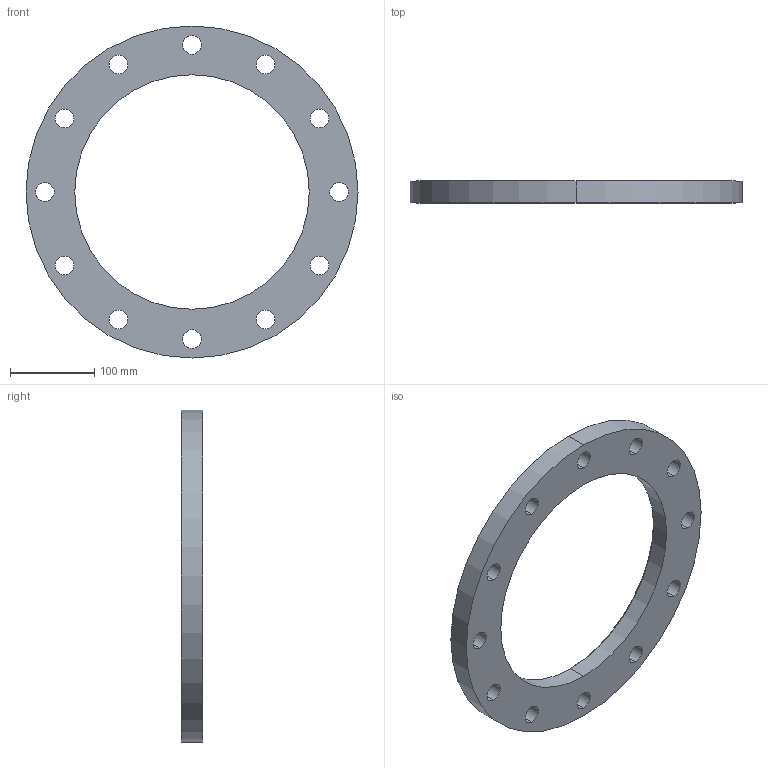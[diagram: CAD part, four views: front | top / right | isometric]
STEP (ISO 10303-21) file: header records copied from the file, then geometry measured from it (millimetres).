
FILE_DESCRIPTION (( 'STEP AP203' ), '1' );
FILE_NAME ('3D_R189_PN10_DN273_17669380.STEP', '2024-08-12T10:57:08', ( '' ), ( '' ), 'SwSTEP 2.0', 'SolidWorks 2024', '' );
FILE_SCHEMA (( 'CONFIG_CONTROL_DESIGN' ));
Length unit declared in the file: millimetre
Products named in the file (1): 3D_R189_PN10_DN273_17669380
Bounding box: 395 x 26 x 395 mm (x, y, z)
Volume: 1470864.4 mm3; surface area: 188272.2 mm2
Topology: 1 solids, 1 shells, 32 faces, 88 edges, 58 vertices
Faces by surface type: cylinder 28, cone 2, plane 2
Entity records: 1183 total; most frequent: DIRECTION 212, CARTESIAN_POINT 179, ORIENTED_EDGE 176, AXIS2_PLACEMENT_3D 91, EDGE_CURVE 88, EDGE_LOOP 58, CIRCLE 58, VERTEX_POINT 58
